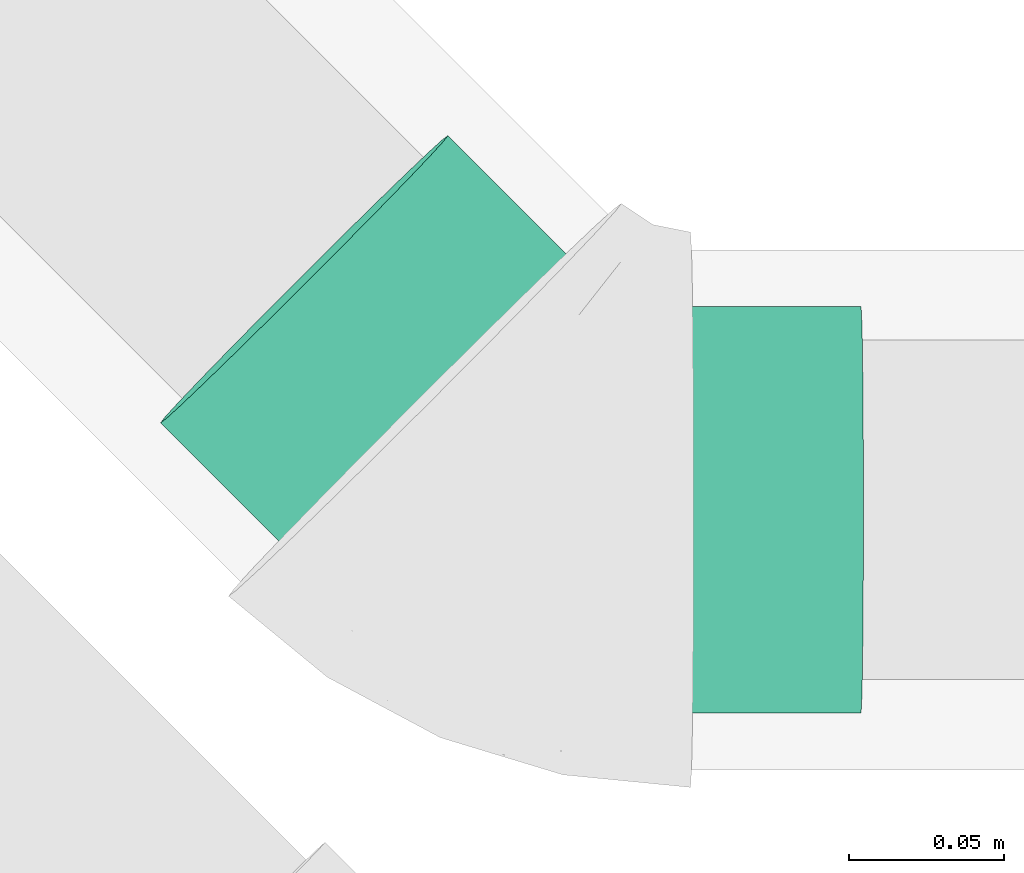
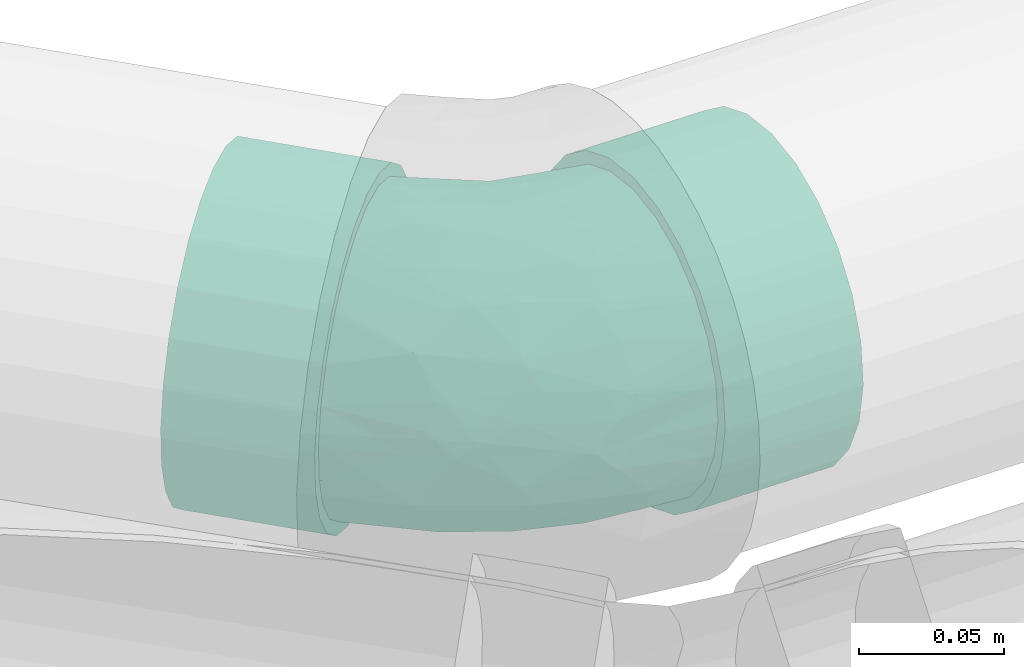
# One storey, part 59 of 78: 1 flow fitting.
"""IFC2X3 building model written with IfcOpenShell, lengths in millimetres."""

from ifc_helpers import new_model, entity, si_unit, converted_unit, derived_unit, direction, frame, origin_with_axes, place, context, subcontext, project, spatial, open_shell, surface_model, source, transform, mapped, type_object, element, save


model = new_model("IFC2X3")

# Units and contexts
model_context = context("Model", 3, precision=0.01, world=frame((0.0, 4.29681676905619e-09, 0.0)), true_north=direction((4.01073788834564e-13, 1.0)))
plan_context = context("Plan", 3, precision=0.01, world=frame((0.0, 4.29681676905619e-09, 0.0)), true_north=direction((4.01073788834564e-13, 1.0)))
body_context = subcontext(model_context, "Body", "Model", "MODEL_VIEW")
ifc_project = project(units=[converted_unit("PLANEANGLEUNIT", "DEGREE", entity("IfcPositiveLengthMeasure", 0.0174532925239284), si_unit("PLANEANGLEUNIT", "RADIAN"), dimensions=[0, 0, 0, 0, 0, 0, 0]), si_unit("AREAUNIT", "SQUARE_METRE"), si_unit("LENGTHUNIT", "METRE", prefix="MILLI"), si_unit("MASSUNIT", "GRAM", prefix="KILO"), si_unit("POWERUNIT", "WATT"), si_unit("PRESSUREUNIT", "PASCAL"), si_unit("FORCEUNIT", "NEWTON", prefix="KILO"), si_unit("ELECTRICVOLTAGEUNIT", "VOLT"), si_unit("ELECTRICCURRENTUNIT", "AMPERE"), si_unit("THERMODYNAMICTEMPERATUREUNIT", "DEGREE_CELSIUS"), si_unit("TIMEUNIT", "SECOND"), si_unit("VOLUMEUNIT", "CUBIC_METRE"), derived_unit("LINEARVELOCITYUNIT", [(si_unit("LENGTHUNIT", "METRE"), 1), (si_unit("TIMEUNIT", "SECOND"), -1)]), derived_unit("VOLUMETRICFLOWRATEUNIT", [(si_unit("VOLUMEUNIT", "CUBIC_METRE"), 1), (si_unit("TIMEUNIT", "SECOND"), -1)]), derived_unit("THERMALTRANSMITTANCEUNIT", [(si_unit("POWERUNIT", "WATT"), 1), (si_unit("THERMODYNAMICTEMPERATUREUNIT", "KELVIN"), -1), (si_unit("AREAUNIT", "SQUARE_METRE"), -1)]), derived_unit("SOUNDPRESSUREUNIT", [(si_unit("PRESSUREUNIT", "PASCAL"), 1)])], contexts=[model_context, plan_context])

# Site, building, storey
site_placement = place(None, frame((0.0, -4.29681676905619e-09, 0.0), z_axis=(0.0, 0.0, 1.0), x_axis=(1.0, 0.0, 0.0)))
site = spatial("IfcSite", under=ifc_project, at=site_placement, Name="ENGM", CompositionType="ELEMENT")
building_placement = place(site_placement, frame((0.0, 4.29681676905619e-09, 0.0), z_axis=(0.0, 0.0, 1.0), x_axis=(1.0, 0.0, 0.0)))
building = spatial("IfcBuilding", under=site, at=building_placement, Name="TH", CompositionType="ELEMENT")
storey_placement = place(building_placement, frame((0.0, 0.0, 205200.0), z_axis=(0.0, 0.0, 1.0), x_axis=(1.0, 0.0, 0.0)))
storey = spatial("IfcBuildingStorey", under=building, at=storey_placement, Name="Nivå D + 1,2 m", CompositionType="ELEMENT", Elevation=205200.0)

# Flow fitting
pipe_fitting_type = type_object("IfcPipeFittingType", Name="magi_sewer_bend_001", PredefinedType="BEND")
shared_shape = source(origin_with_axes(), body_context, "Body", "SurfaceModel", [
    surface_model("IfcShellBasedSurfaceModel", [(-105.1144, -16.95265, -63.26814), (-105.1144, -32.75, -56.72466), (-105.1144, -46.3155, -46.3155), (-105.1144, -63.26814, -16.95265), (-105.1144, 56.72466, -32.75), (-105.1144, -56.72466, -32.75), (-105.1144, -65.5, 0.0), (-105.1144, 16.95265, -63.26814), (-105.1144, 0.0, -65.5), (-105.1144, 32.75, -56.72466), (-105.1144, 46.3155, -46.3155), (-105.1144, 63.26814, -16.95265), (-105.1144, -63.26814, 16.95265), (-105.1144, -56.72466, 32.75), (-105.1144, -46.3155, 46.3155), (-105.1144, 63.26814, 16.95265), (-105.1144, -16.95265, 63.26814), (-105.1144, 0.0, 65.5), (-105.1144, -32.75, 56.72466), (-105.1144, 46.3155, 46.3155), (-105.1144, 56.72466, 32.75), (-105.1144, 65.5, 0.0), (-105.1144, 16.95265, 63.26814), (-105.1144, 32.75, 56.72466), (-50.11439, -16.95265, 63.26814), (-50.11439, 16.95265, 63.26814), (-50.11439, 0.0, 65.5), (-50.11439, -46.3155, 46.3155), (-50.11439, -32.75, 56.72466), (-50.11439, -56.72466, 32.75), (-50.11439, -63.26814, 16.95265), (-50.11439, 46.3155, 46.3155), (-50.11439, 32.75, 56.72466), (-50.11439, 63.26814, 16.95265), (-50.11439, 56.72466, 32.75), (-50.11439, 63.26814, -16.95265), (-50.11439, 65.5, 0.0), (-50.11439, -63.26814, -16.95265), (-50.11439, 32.75, -56.72466), (-50.11439, -65.5, 0.0), (-50.11439, -16.95265, -63.26814), (-50.11439, -56.72466, -32.75), (-50.11439, -46.3155, -46.3155), (-50.11439, -32.75, -56.72466), (-50.11439, 0.0, -65.5), (-50.11439, 46.3155, -46.3155), (-50.11439, 56.72466, -32.75), (-50.11439, 16.95265, -63.26814), (29.59892, 119.06215, 16.95265), (34.2255, 114.43487, 32.75), (41.58533, 107.07391, 46.3155), (28.02088, 120.64044, 0.0), (62.3464, 86.30964, 63.26814), (74.33281, 74.32139, 65.5), (51.17685, 97.48091, 56.72466), (86.31922, 62.33313, -63.26814), (41.58533, 107.07391, -46.3155), (29.59892, 119.06215, -16.95265), (34.2255, 114.43487, -32.75), (51.17685, 97.48091, -56.72466), (74.33281, 74.32139, -65.5), (62.3464, 86.30964, -63.26814), (86.31922, 62.33313, 63.26814), (97.48878, 51.16186, 56.72466), (107.08029, 41.56887, 46.3155), (119.06671, 29.58061, -16.95265), (119.06671, 29.58061, 16.95265), (114.44013, 34.20791, 32.75), (120.64474, 28.00233, 0.0), (97.48878, 51.16186, -56.72466), (107.08029, 41.56887, -46.3155), (114.44013, 34.20791, -32.75), (80.17284, -9.30727, 16.95265), (80.17284, -9.30727, -16.95265), (81.75089, -10.88555, 0.0), (47.42536, 23.44525, 63.26814), (75.54626, -4.67998, 32.75), (68.18643, 2.68098, 46.3155), (58.59492, 12.27397, 56.72466), (68.18643, 2.68098, -46.3155), (75.54626, -4.67998, -32.75), (47.42536, 23.44525, -63.26814), (58.59492, 12.27397, -56.72466), (23.45254, 47.42176, -63.26814), (35.43895, 35.4335, -65.5), (-4.66836, 75.54698, 32.75), (23.45254, 47.42176, 63.26814), (12.28298, 58.59303, 56.72466), (2.69147, 68.18602, -46.3155), (2.69147, 68.18602, 46.3155), (-10.87298, 81.75256, 0.0), (-9.29494, 80.17428, 16.95265), (12.28298, 58.59303, -56.72466), (-9.29494, 80.17428, -16.95265), (-4.66836, 75.54698, -32.75), (35.43895, 35.4335, 65.5), (-50.11439, 15.65855, -58.43851), (-50.11439, 0.0, -60.5), (-50.11439, 58.43851, -15.65855), (-50.11439, 30.25, -52.39454), (-50.11439, 52.39454, -30.25), (-50.11439, 42.77996, -42.77996), (-50.11439, -60.5, 0.0), (-50.11439, -30.25, -52.39454), (-50.11439, -42.77996, -42.77996), (-50.11439, -15.65855, -58.43851), (-50.11439, -58.43851, -15.65855), (-50.11439, -52.39454, -30.25), (-50.11439, -58.43851, 15.65855), (-50.11439, 58.43851, 15.65855), (-50.11439, 52.39454, 30.25), (-50.11439, 42.77996, 42.77996), (-50.11439, 30.25, 52.39454), (-50.11439, 15.65855, 58.43851), (-50.11439, -52.39454, 30.25), (-50.11439, -42.77996, 42.77996), (-50.11439, -30.25, 52.39454), (-50.11439, -15.65855, 58.43851), (-50.11439, 0.0, 60.5), (-50.11439, 60.5, 0.0), (24.36753, 46.50662, -58.43851), (65.68662, 5.18118, -42.77996), (35.43895, 35.4335, -60.5), (-5.88014, 76.75895, -15.65855), (14.05062, 56.82512, -52.39454), (5.19128, 65.68583, -42.77996), (-1.60673, 72.48488, -30.25), (-5.88014, 76.75895, 15.65855), (46.51037, 24.36038, -58.43851), (56.82729, 14.04188, -52.39454), (72.48463, -1.61788, -30.25), (78.21562, -7.34975, 0.0), (76.75804, -5.89194, -15.65855), (76.75804, -5.89194, 15.65855), (14.05062, 56.82512, 52.39454), (-1.60673, 72.48488, 30.25), (5.19128, 65.68583, 42.77996), (24.36753, 46.50662, 58.43851), (35.43895, 35.4335, 60.5), (65.68662, 5.18118, 42.77996), (72.48463, -1.61788, 30.25), (56.82729, 14.04188, 52.39454), (46.51037, 24.36038, 58.43851), (-7.33772, 78.21675, 0.0), (15.40819, -37.2027, 33.71544), (-13.38141, -34.19346, 46.68437), (-19.53118, -46.27101, 35.42524), (-20.20869, -56.56323, 0.0), (-3.14322, -54.31675, 0.0), (-12.91004, -55.73793, 10.33135), (46.52772, -18.91149, 35.42524), (-23.97004, -22.18511, 55.29403), (6.21199, -14.9987, 54.53189), (1.7977, 36.36958, 56.468), (10.9359, 28.63509, 59.61983), (-18.05265, -5.8252, 59.69853), (-5.75324, 13.89108, 60.28736), (-30.31035, 8.3834, 60.13282), (-17.1829, 41.48769, 49.39226), (-26.67514, 50.73821, 38.17943), (32.63672, 1.25962, 55.29403), (-23.24144, 25.17568, 56.55889), (23.34476, -39.60004, 23.84441), (-10.84502, -52.34213, 21.01045), (18.78267, -45.3503, 13.15089), (-24.92023, 60.16929, 24.85568), (48.53912, -30.28762, 10.33135), (54.28397, -25.71071, 0.0), (-24.23132, 64.82573, 12.71159), (44.6778, -29.34632, 21.01045), (16.88485, 8.64481, 59.69853), (33.63938, -14.71893, 46.68437), (-26.96419, 65.1044, 0.0), (10.15401, -24.51664, 48.24666), (18.74216, -45.2525, 0.0), (40.62755, -36.18826, 0.0), (-18.05265, -5.8252, -59.69853), (-12.91004, -55.73793, -10.33135), (18.78267, -45.3503, -13.15089), (16.88485, 8.64481, -59.69853), (-26.98646, 24.44809, -56.468), (-27.97996, 12.51736, -59.61983), (-17.01096, 54.74081, -38.17943), (33.63939, -14.71893, -46.68437), (-24.92023, 60.16929, -24.85568), (44.6778, -29.34632, -21.01045), (-28.69974, 62.97505, -12.71159), (-1.36508, 34.23618, -56.55889), (-10.84502, -52.34213, -21.01045), (-17.1829, 41.48769, -49.39226), (-19.53118, -46.27101, -35.42524), (-13.38141, -34.19346, -46.68437), (10.15401, -24.51664, -48.24666), (15.40819, -37.2027, -33.71544), (-23.97004, -22.18511, -55.29403), (32.63672, 1.25962, -55.29403), (6.21199, -14.9987, -54.53189), (48.53912, -30.28762, -10.33135), (15.5068, 27.35942, -60.13282), (11.4908, -44.50958, -23.84441), (46.52772, -18.91149, -35.42524), (-5.75324, 13.89108, -60.28736)], [open_shell([[[0, 1, 2]], [[0, 2, 3]], [[0, 3, 4]], [[3, 2, 5]], [[4, 3, 6]], [[0, 7, 8]], [[0, 9, 7]], [[10, 9, 0]], [[0, 4, 10]], [[6, 11, 4]], [[6, 12, 11]], [[12, 13, 14]], [[11, 14, 15]], [[16, 17, 14]], [[16, 14, 18]], [[15, 14, 17]], [[15, 19, 20]], [[21, 11, 15]], [[19, 22, 23]], [[22, 19, 15]], [[17, 22, 15]], [[11, 12, 14]], [[24, 25, 26]], [[27, 24, 28]], [[27, 29, 30]], [[24, 27, 25]], [[30, 25, 27]], [[25, 31, 32]], [[31, 25, 33]], [[31, 33, 34]], [[25, 30, 33]], [[33, 35, 36]], [[33, 30, 35]], [[37, 38, 39]], [[40, 37, 41]], [[42, 43, 40]], [[42, 40, 41]], [[44, 37, 40]], [[39, 45, 46]], [[46, 35, 39]], [[38, 44, 47]], [[38, 45, 39]], [[38, 37, 44]], [[39, 35, 30]], [[35, 11, 36]], [[46, 4, 35]], [[47, 44, 7]], [[45, 10, 46]], [[35, 4, 11]], [[11, 21, 36]], [[9, 38, 7]], [[9, 10, 45]], [[38, 47, 7]], [[10, 4, 46]], [[45, 38, 9]], [[44, 8, 7]], [[0, 40, 43]], [[42, 1, 43]], [[5, 41, 37]], [[42, 41, 2]], [[3, 37, 39]], [[40, 0, 8]], [[43, 1, 0]], [[42, 2, 1]], [[41, 5, 2]], [[3, 5, 37]], [[39, 6, 3]], [[40, 8, 44]], [[30, 12, 39]], [[29, 13, 30]], [[28, 18, 27]], [[27, 14, 29]], [[30, 13, 12]], [[12, 6, 39]], [[17, 16, 24]], [[16, 18, 28]], [[14, 27, 18]], [[14, 13, 29]], [[24, 16, 28]], [[24, 26, 17]], [[22, 25, 32]], [[31, 23, 32]], [[20, 34, 33]], [[31, 34, 19]], [[15, 33, 36]], [[25, 22, 17]], [[32, 23, 22]], [[31, 19, 23]], [[34, 20, 19]], [[15, 20, 33]], [[36, 21, 15]], [[25, 17, 26]], [[48, 49, 50]], [[51, 48, 50]], [[52, 53, 50]], [[52, 50, 54]], [[50, 55, 56]], [[57, 56, 58]], [[56, 57, 51]], [[59, 60, 61]], [[56, 51, 50]], [[59, 56, 60]], [[50, 53, 55]], [[62, 63, 64]], [[65, 62, 64]], [[65, 64, 66]], [[66, 64, 67]], [[65, 66, 68]], [[55, 65, 69]], [[60, 56, 55]], [[70, 65, 71]], [[65, 70, 69]], [[62, 65, 55]], [[55, 53, 62]], [[72, 73, 74]], [[75, 72, 76]], [[77, 78, 75]], [[77, 75, 76]], [[73, 72, 75]], [[73, 79, 80]], [[79, 73, 81]], [[79, 81, 82]], [[73, 75, 81]], [[81, 83, 84]], [[81, 75, 85]], [[75, 86, 85]], [[85, 86, 87]], [[88, 81, 85]], [[85, 87, 89]], [[90, 85, 91]], [[92, 83, 81]], [[88, 92, 81]], [[88, 93, 94]], [[88, 85, 93]], [[90, 93, 85]], [[86, 75, 95]], [[83, 61, 84]], [[92, 59, 83]], [[93, 90, 57]], [[88, 56, 92]], [[83, 59, 61]], [[61, 60, 84]], [[58, 94, 57]], [[58, 56, 88]], [[94, 93, 57]], [[56, 59, 92]], [[88, 94, 58]], [[90, 51, 57]], [[48, 91, 85]], [[89, 49, 85]], [[54, 87, 86]], [[89, 87, 50]], [[52, 86, 95]], [[91, 48, 51]], [[85, 49, 48]], [[89, 50, 49]], [[87, 54, 50]], [[52, 54, 86]], [[95, 53, 52]], [[91, 51, 90]], [[62, 95, 75]], [[63, 75, 78]], [[67, 76, 72]], [[66, 72, 74]], [[75, 63, 62]], [[62, 53, 95]], [[77, 64, 63]], [[64, 77, 67]], [[67, 77, 76]], [[72, 66, 67]], [[77, 63, 78]], [[74, 68, 66]], [[65, 73, 80]], [[79, 71, 80]], [[69, 82, 81]], [[79, 82, 70]], [[55, 81, 84]], [[73, 65, 68]], [[80, 71, 65]], [[79, 70, 71]], [[82, 69, 70]], [[55, 69, 81]], [[84, 60, 55]], [[73, 68, 74]], [[96, 97, 98]], [[99, 96, 98]], [[98, 100, 101]], [[99, 98, 101]], [[102, 98, 97]], [[103, 104, 105]], [[104, 97, 105]], [[106, 102, 107]], [[104, 107, 102]], [[104, 102, 97]], [[102, 108, 98]], [[109, 98, 108]], [[110, 109, 111]], [[112, 109, 108]], [[111, 109, 112]], [[113, 112, 108]], [[114, 115, 108]], [[116, 108, 115]], [[117, 118, 116]], [[108, 116, 118]], [[118, 113, 108]], [[119, 98, 109]], [[120, 121, 122]], [[123, 120, 124]], [[125, 126, 123]], [[125, 123, 124]], [[127, 121, 120]], [[128, 121, 129]], [[128, 122, 121]], [[130, 131, 132]], [[131, 130, 121]], [[121, 133, 131]], [[127, 120, 123]], [[133, 121, 127]], [[134, 127, 135]], [[127, 134, 133]], [[134, 135, 136]], [[137, 138, 134]], [[133, 139, 140]], [[139, 133, 141]], [[133, 142, 141]], [[142, 133, 138]], [[133, 134, 138]], [[127, 123, 143]], [[144, 145, 146]], [[147, 148, 149]], [[116, 115, 145]], [[140, 139, 150]], [[151, 145, 152]], [[146, 145, 115]], [[137, 153, 154]], [[117, 116, 151]], [[155, 156, 157]], [[118, 117, 155]], [[111, 158, 159]], [[141, 142, 160]], [[157, 113, 118]], [[112, 161, 158]], [[108, 147, 149]], [[134, 136, 158]], [[162, 163, 164]], [[158, 111, 112]], [[115, 114, 146]], [[110, 159, 165]], [[109, 110, 165]], [[133, 166, 167]], [[168, 119, 109]], [[169, 162, 164]], [[163, 149, 164]], [[112, 113, 161]], [[138, 154, 170]], [[139, 141, 171]], [[135, 127, 165]], [[170, 142, 138]], [[144, 146, 163]], [[139, 171, 150]], [[156, 154, 153]], [[171, 141, 160]], [[114, 163, 146]], [[166, 133, 169]], [[144, 150, 171]], [[157, 161, 113]], [[144, 162, 150]], [[109, 165, 168]], [[114, 108, 163]], [[172, 168, 143]], [[145, 173, 152]], [[127, 168, 165]], [[152, 170, 155]], [[135, 165, 159]], [[152, 160, 170]], [[135, 159, 136]], [[156, 155, 170]], [[137, 134, 153]], [[153, 158, 161]], [[151, 155, 117]], [[110, 111, 159]], [[169, 133, 140]], [[169, 140, 150]], [[173, 144, 171]], [[136, 159, 158]], [[158, 153, 134]], [[156, 153, 161]], [[145, 151, 116]], [[155, 151, 152]], [[170, 160, 142]], [[171, 160, 152]], [[108, 102, 147]], [[164, 148, 174]], [[108, 149, 163]], [[148, 164, 149]], [[166, 164, 175]], [[167, 166, 175]], [[167, 131, 133]], [[164, 166, 169]], [[170, 154, 156]], [[138, 137, 154]], [[155, 157, 118]], [[161, 157, 156]], [[144, 173, 145]], [[171, 152, 173]], [[143, 168, 127]], [[168, 172, 119]], [[150, 162, 169]], [[163, 162, 144]], [[175, 164, 174]], [[105, 97, 176]], [[148, 177, 178]], [[122, 128, 179]], [[180, 181, 96]], [[100, 182, 101]], [[129, 121, 183]], [[184, 182, 100]], [[130, 132, 185]], [[98, 186, 184]], [[124, 120, 187]], [[106, 177, 147]], [[99, 180, 96]], [[177, 106, 188]], [[125, 189, 182]], [[188, 107, 190]], [[190, 104, 191]], [[104, 103, 191]], [[192, 193, 191]], [[106, 107, 188]], [[104, 190, 107]], [[194, 103, 105]], [[195, 179, 128]], [[123, 126, 184]], [[196, 194, 176]], [[119, 172, 186]], [[193, 190, 191]], [[143, 123, 186]], [[196, 176, 179]], [[125, 124, 189]], [[184, 100, 98]], [[126, 182, 184]], [[194, 191, 103]], [[187, 189, 124]], [[181, 176, 97]], [[189, 187, 180]], [[101, 189, 99]], [[132, 167, 197]], [[198, 120, 122]], [[195, 128, 129]], [[199, 185, 178]], [[121, 200, 183]], [[196, 195, 183]], [[121, 130, 200]], [[201, 198, 179]], [[200, 193, 183]], [[201, 179, 176]], [[197, 167, 175]], [[198, 187, 120]], [[201, 181, 180]], [[177, 188, 178]], [[193, 199, 190]], [[183, 192, 196]], [[130, 185, 200]], [[123, 184, 186]], [[193, 200, 185]], [[126, 125, 182]], [[101, 182, 189]], [[189, 180, 99]], [[201, 180, 187]], [[176, 194, 105]], [[191, 194, 196]], [[183, 195, 129]], [[179, 195, 196]], [[147, 177, 148]], [[147, 102, 106]], [[199, 178, 188]], [[197, 178, 185]], [[178, 175, 174]], [[132, 131, 167]], [[178, 197, 175]], [[132, 197, 185]], [[176, 181, 201]], [[97, 96, 181]], [[179, 198, 122]], [[187, 198, 201]], [[193, 192, 183]], [[191, 196, 192]], [[119, 186, 98]], [[186, 172, 143]], [[190, 199, 188]], [[185, 199, 193]], [[148, 178, 174]]])]),
])
flow_fitting_placement = place(storey_placement, frame((900842.38164, 482818.6253, 4403.99478000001), z_axis=(0.0124499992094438, -0.0140389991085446, 0.999823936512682), x_axis=(0.706982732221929, -0.706982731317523, -0.0187305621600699)))
element("IfcFlowFitting", 1, at=flow_fitting_placement, inside=storey, type_object=pipe_fitting_type, Name="magi_sewer_bend_001", context=body_context, shape_type="MappedRepresentation", body=[
    mapped(shared_shape, transform((0.0, 0.0, 0.0), scale=1.0)),
])

save(model, "model.ifc")
